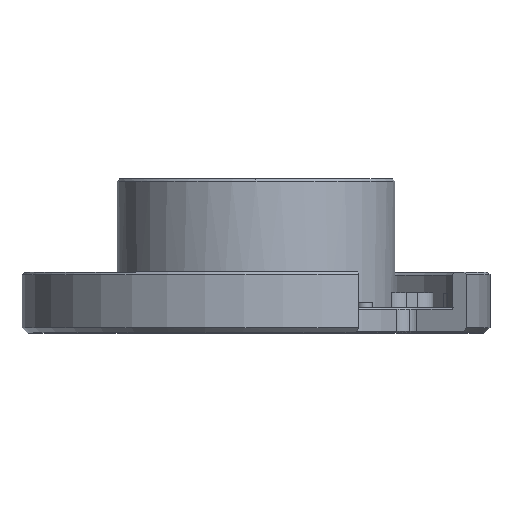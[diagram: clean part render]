
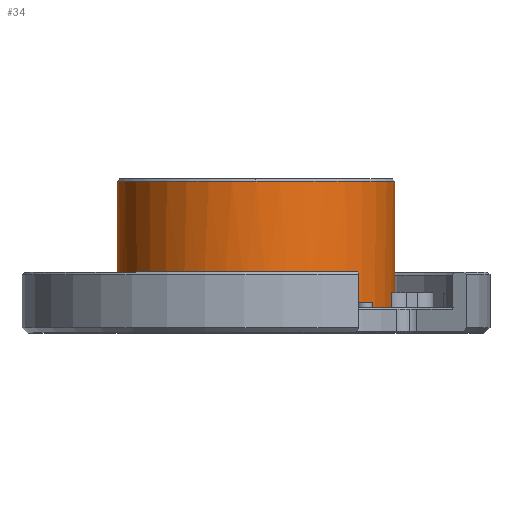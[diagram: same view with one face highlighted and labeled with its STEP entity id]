
A CAD part, top view. The second image highlights one B-rep face of the part: STEP entity #34.
In plain terms, the highlighted cylindrical face has radius 27.5 mm (diameter 55 mm), a partial arc.
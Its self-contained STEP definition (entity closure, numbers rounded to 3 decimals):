
#2 = EDGE_CURVE ( 'NONE', #1214, #3435, #2909, .T. ) ;
#18 = DIRECTION ( 'NONE',  ( 0., -1., 0. ) ) ;
#33 = CIRCLE ( 'NONE', #1180, 27.5 ) ;
#34 = ADVANCED_FACE ( 'NONE', ( #1803 ), #4592, .T. ) ;
#44 = CIRCLE ( 'NONE', #4609, 27.5 ) ;
#110 = VERTEX_POINT ( 'NONE', #2351 ) ;
#208 = ORIENTED_EDGE ( 'NONE', *, *, #5345, .F. ) ;
#380 = DIRECTION ( 'NONE',  ( -1., 0., 0. ) ) ;
#404 = CARTESIAN_POINT ( 'NONE',  ( 26.766, 8., 6.311 ) ) ;
#405 = VECTOR ( 'NONE', #5362, 1000. ) ;
#446 = ORIENTED_EDGE ( 'NONE', *, *, #1051, .F. ) ;
#516 = DIRECTION ( 'NONE',  ( -1., 0., 0. ) ) ;
#543 = CARTESIAN_POINT ( 'NONE',  ( 0., 8., 0. ) ) ;
#547 = ORIENTED_EDGE ( 'NONE', *, *, #1656, .F. ) ;
#622 = CARTESIAN_POINT ( 'NONE',  ( 0., 30., 0. ) ) ;
#680 = DIRECTION ( 'NONE',  ( 0., 1., 0. ) ) ;
#755 = CARTESIAN_POINT ( 'NONE',  ( 27.5, 30., 0. ) ) ;
#767 = DIRECTION ( 'NONE',  ( 0., -1., 0. ) ) ;
#796 = DIRECTION ( 'NONE',  ( -0.23, 0., 0.973 ) ) ;
#819 = VECTOR ( 'NONE', #3449, 1000. ) ;
#827 = LINE ( 'NONE', #2645, #5385 ) ;
#934 = DIRECTION ( 'NONE',  ( 0., -1., 0. ) ) ;
#975 = ORIENTED_EDGE ( 'NONE', *, *, #4560, .T. ) ;
#1013 = EDGE_CURVE ( 'NONE', #3435, #3170, #2524, .T. ) ;
#1043 = DIRECTION ( 'NONE',  ( -1., 0., 0. ) ) ;
#1051 = EDGE_CURVE ( 'NONE', #3152, #2621, #2519, .T. ) ;
#1097 = DIRECTION ( 'NONE',  ( -1., 0., 0. ) ) ;
#1101 = AXIS2_PLACEMENT_3D ( 'NONE', #4967, #767, #796 ) ;
#1102 = VERTEX_POINT ( 'NONE', #3589 ) ;
#1152 = CARTESIAN_POINT ( 'NONE',  ( 27.5, 8., 0. ) ) ;
#1180 = AXIS2_PLACEMENT_3D ( 'NONE', #2174, #3573, #5747 ) ;
#1214 = VERTEX_POINT ( 'NONE', #5118 ) ;
#1251 = LINE ( 'NONE', #3538, #405 ) ;
#1302 = CARTESIAN_POINT ( 'NONE',  ( 0., 32.025, 0. ) ) ;
#1320 = VERTEX_POINT ( 'NONE', #4693 ) ;
#1656 = EDGE_CURVE ( 'NONE', #110, #3811, #2321, .T. ) ;
#1772 = AXIS2_PLACEMENT_3D ( 'NONE', #622, #680, #1097 ) ;
#1803 = FACE_OUTER_BOUND ( 'NONE', #5258, .T. ) ;
#1888 = CARTESIAN_POINT ( 'NONE',  ( 0., 8., 0. ) ) ;
#1919 = VERTEX_POINT ( 'NONE', #3427 ) ;
#1998 = EDGE_CURVE ( 'NONE', #1320, #5744, #5861, .T. ) ;
#2009 = CARTESIAN_POINT ( 'NONE',  ( -27.5, 30., 0. ) ) ;
#2046 = ORIENTED_EDGE ( 'NONE', *, *, #5135, .F. ) ;
#2069 = CARTESIAN_POINT ( 'NONE',  ( -6.311, 5., 26.766 ) ) ;
#2166 = DIRECTION ( 'NONE',  ( 0., 1., 0. ) ) ;
#2174 = CARTESIAN_POINT ( 'NONE',  ( 0., 5., 0. ) ) ;
#2221 = ORIENTED_EDGE ( 'NONE', *, *, #4125, .F. ) ;
#2302 = ORIENTED_EDGE ( 'NONE', *, *, #1998, .T. ) ;
#2321 = LINE ( 'NONE', #3665, #2786 ) ;
#2325 = AXIS2_PLACEMENT_3D ( 'NONE', #5041, #4988, #2725 ) ;
#2351 = CARTESIAN_POINT ( 'NONE',  ( -6.311, 8., 26.766 ) ) ;
#2519 = CIRCLE ( 'NONE', #3274, 27.5 ) ;
#2524 = LINE ( 'NONE', #1152, #819 ) ;
#2556 = EDGE_CURVE ( 'NONE', #1102, #1919, #1251, .T. ) ;
#2621 = VERTEX_POINT ( 'NONE', #2826 ) ;
#2638 = VERTEX_POINT ( 'NONE', #3682 ) ;
#2645 = CARTESIAN_POINT ( 'NONE',  ( -27.5, 8., 0. ) ) ;
#2712 = AXIS2_PLACEMENT_3D ( 'NONE', #1302, #3670, #516 ) ;
#2725 = DIRECTION ( 'NONE',  ( 0.973, 0., 0.23 ) ) ;
#2786 = VECTOR ( 'NONE', #4148, 1000. ) ;
#2793 = VECTOR ( 'NONE', #934, 1000. ) ;
#2826 = CARTESIAN_POINT ( 'NONE',  ( 0., 30., 27.5 ) ) ;
#2909 = CIRCLE ( 'NONE', #2325, 27.5 ) ;
#2910 = CIRCLE ( 'NONE', #1101, 27.5 ) ;
#3003 = CIRCLE ( 'NONE', #1772, 27.5 ) ;
#3127 = ORIENTED_EDGE ( 'NONE', *, *, #3613, .F. ) ;
#3152 = VERTEX_POINT ( 'NONE', #2009 ) ;
#3170 = VERTEX_POINT ( 'NONE', #755 ) ;
#3274 = AXIS2_PLACEMENT_3D ( 'NONE', #5305, #2166, #380 ) ;
#3427 = CARTESIAN_POINT ( 'NONE',  ( 6.311, 5., 26.766 ) ) ;
#3435 = VERTEX_POINT ( 'NONE', #4682 ) ;
#3449 = DIRECTION ( 'NONE',  ( 0., 1., 0. ) ) ;
#3538 = CARTESIAN_POINT ( 'NONE',  ( 6.311, 8., 26.766 ) ) ;
#3573 = DIRECTION ( 'NONE',  ( 0., -1., 0. ) ) ;
#3589 = CARTESIAN_POINT ( 'NONE',  ( 6.311, 8., 26.766 ) ) ;
#3613 = EDGE_CURVE ( 'NONE', #5763, #1919, #33, .T. ) ;
#3649 = CARTESIAN_POINT ( 'NONE',  ( -26.766, 8., 6.311 ) ) ;
#3665 = CARTESIAN_POINT ( 'NONE',  ( -6.311, 8., 26.766 ) ) ;
#3670 = DIRECTION ( 'NONE',  ( 0., -1., 0. ) ) ;
#3682 = CARTESIAN_POINT ( 'NONE',  ( -27.5, 8., 0. ) ) ;
#3811 = VERTEX_POINT ( 'NONE', #2069 ) ;
#4125 = EDGE_CURVE ( 'NONE', #1214, #5763, #5021, .T. ) ;
#4132 = VECTOR ( 'NONE', #18, 1000. ) ;
#4148 = DIRECTION ( 'NONE',  ( 0., -1., 0. ) ) ;
#4205 = DIRECTION ( 'NONE',  ( 0., 1., 0. ) ) ;
#4233 = EDGE_CURVE ( 'NONE', #2638, #1320, #5743, .T. ) ;
#4277 = CARTESIAN_POINT ( 'NONE',  ( 26.766, 5., 6.311 ) ) ;
#4306 = CARTESIAN_POINT ( 'NONE',  ( -26.766, 5., 6.311 ) ) ;
#4467 = DIRECTION ( 'NONE',  ( 0., 1., 0. ) ) ;
#4560 = EDGE_CURVE ( 'NONE', #110, #1102, #44, .T. ) ;
#4561 = ORIENTED_EDGE ( 'NONE', *, *, #4233, .T. ) ;
#4592 = CYLINDRICAL_SURFACE ( 'NONE', #2712, 27.5 ) ;
#4605 = AXIS2_PLACEMENT_3D ( 'NONE', #1888, #4205, #1043 ) ;
#4609 = AXIS2_PLACEMENT_3D ( 'NONE', #543, #5037, #5573 ) ;
#4670 = ORIENTED_EDGE ( 'NONE', *, *, #5383, .F. ) ;
#4682 = CARTESIAN_POINT ( 'NONE',  ( 27.5, 8., 0. ) ) ;
#4693 = CARTESIAN_POINT ( 'NONE',  ( -26.766, 8., 6.311 ) ) ;
#4925 = ORIENTED_EDGE ( 'NONE', *, *, #2, .T. ) ;
#4967 = CARTESIAN_POINT ( 'NONE',  ( 0., 5., 0. ) ) ;
#4988 = DIRECTION ( 'NONE',  ( 0., 1., 0. ) ) ;
#5021 = LINE ( 'NONE', #404, #2793 ) ;
#5037 = DIRECTION ( 'NONE',  ( 0., 1., 0. ) ) ;
#5041 = CARTESIAN_POINT ( 'NONE',  ( 0., 8., 0. ) ) ;
#5118 = CARTESIAN_POINT ( 'NONE',  ( 26.766, 8., 6.311 ) ) ;
#5135 = EDGE_CURVE ( 'NONE', #2621, #3170, #3003, .T. ) ;
#5258 = EDGE_LOOP ( 'NONE', ( #4670, #4561, #2302, #208, #547, #975, #5339, #3127, #2221, #4925, #5752, #2046, #446 ) ) ;
#5305 = CARTESIAN_POINT ( 'NONE',  ( 0., 30., 0. ) ) ;
#5339 = ORIENTED_EDGE ( 'NONE', *, *, #2556, .T. ) ;
#5345 = EDGE_CURVE ( 'NONE', #3811, #5744, #2910, .T. ) ;
#5362 = DIRECTION ( 'NONE',  ( 0., -1., 0. ) ) ;
#5383 = EDGE_CURVE ( 'NONE', #2638, #3152, #827, .T. ) ;
#5385 = VECTOR ( 'NONE', #4467, 1000. ) ;
#5573 = DIRECTION ( 'NONE',  ( -0.23, 0., 0.973 ) ) ;
#5743 = CIRCLE ( 'NONE', #4605, 27.5 ) ;
#5744 = VERTEX_POINT ( 'NONE', #4306 ) ;
#5747 = DIRECTION ( 'NONE',  ( 0.973, 0., 0.23 ) ) ;
#5752 = ORIENTED_EDGE ( 'NONE', *, *, #1013, .T. ) ;
#5763 = VERTEX_POINT ( 'NONE', #4277 ) ;
#5861 = LINE ( 'NONE', #3649, #4132 ) ;
